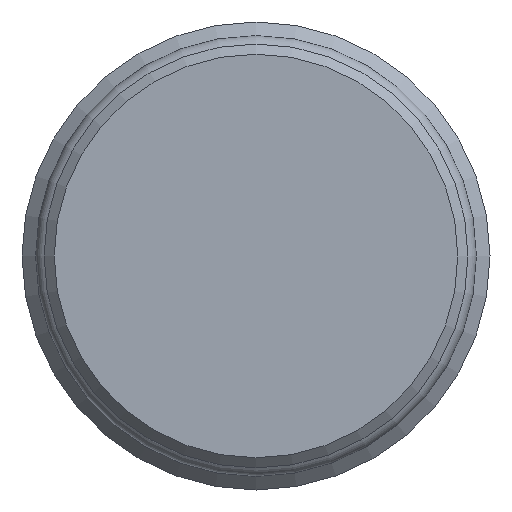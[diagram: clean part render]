
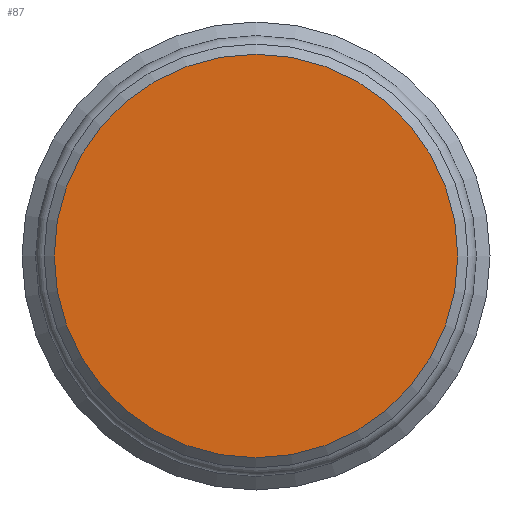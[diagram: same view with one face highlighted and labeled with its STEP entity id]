
A CAD part, left-side view. The second image highlights one B-rep face of the part: STEP entity #87.
In plain terms, the highlighted planar face has unit normal (-1, 0, 0).
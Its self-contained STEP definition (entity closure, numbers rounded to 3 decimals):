
#87 = ADVANCED_FACE( '', ( #194 ), #195, .F. );
#194 = FACE_OUTER_BOUND( '', #313, .T. );
#195 = PLANE( '', #314 );
#313 = EDGE_LOOP( '', ( #478 ) );
#314 = AXIS2_PLACEMENT_3D( '', #479, #480, #481 );
#478 = ORIENTED_EDGE( '', *, *, #622, .F. );
#479 = CARTESIAN_POINT( '', ( 0., 0., 0. ) );
#480 = DIRECTION( '', ( 1., 0., 0. ) );
#481 = DIRECTION( '', ( 0., 0., -1. ) );
#622 = EDGE_CURVE( '', #725, #725, #726, .T. );
#725 = VERTEX_POINT( '', #860 );
#726 = CIRCLE( '', #861, 5.95 );
#860 = CARTESIAN_POINT( '', ( 0., 0., -5.95 ) );
#861 = AXIS2_PLACEMENT_3D( '', #995, #996, #997 );
#995 = CARTESIAN_POINT( '', ( 0., 0., 0. ) );
#996 = DIRECTION( '', ( 1., 0., 0. ) );
#997 = DIRECTION( '', ( 0., 0., -1. ) );
